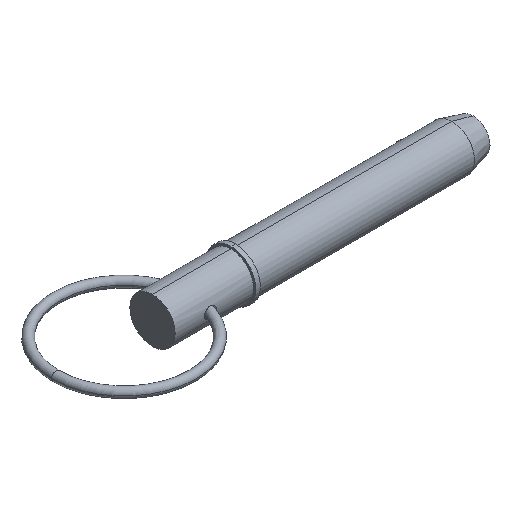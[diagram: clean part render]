
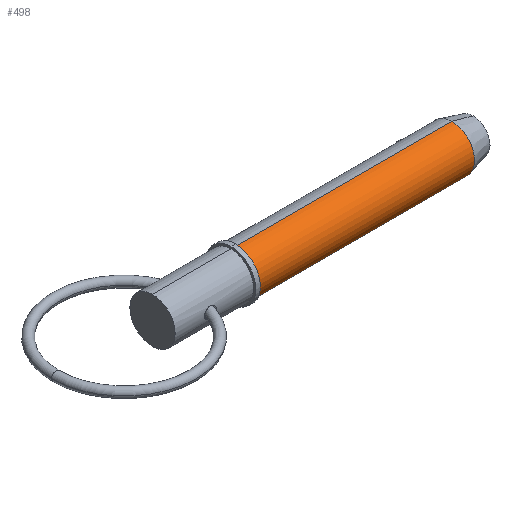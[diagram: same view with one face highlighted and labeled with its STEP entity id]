
A CAD part, isometric view. The second image highlights one B-rep face of the part: STEP entity #498.
In plain terms, the highlighted cylindrical face has radius 9.525 mm (diameter 19.05 mm), a partial arc.
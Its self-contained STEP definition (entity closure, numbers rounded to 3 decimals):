
#8 = DIRECTION ( 'NONE',  ( 1., 0., 0. ) ) ;
#57 = LINE ( 'NONE', #785, #756 ) ;
#73 = CARTESIAN_POINT ( 'NONE',  ( 126.043, 0., -9.525 ) ) ;
#86 = CARTESIAN_POINT ( 'NONE',  ( 126.043, 0., 0. ) ) ;
#96 = DIRECTION ( 'NONE',  ( 1., 0., 0. ) ) ;
#128 = CIRCLE ( 'NONE', #831, 9.525 ) ;
#130 = DIRECTION ( 'NONE',  ( 1., 0., 0. ) ) ;
#144 = CIRCLE ( 'NONE', #982, 9.525 ) ;
#167 = EDGE_CURVE ( 'NONE', #958, #265, #144, .T. ) ;
#221 = CYLINDRICAL_SURFACE ( 'NONE', #306, 9.525 ) ;
#222 = VERTEX_POINT ( 'NONE', #808 ) ;
#223 = EDGE_CURVE ( 'NONE', #850, #958, #233, .T. ) ;
#233 = LINE ( 'NONE', #488, #400 ) ;
#265 = VERTEX_POINT ( 'NONE', #73 ) ;
#286 = EDGE_CURVE ( 'NONE', #850, #222, #128, .T. ) ;
#306 = AXIS2_PLACEMENT_3D ( 'NONE', #1058, #563, #966 ) ;
#344 = DIRECTION ( 'NONE',  ( 0., 0., -1. ) ) ;
#358 = CARTESIAN_POINT ( 'NONE',  ( 34.93, 0., 9.525 ) ) ;
#400 = VECTOR ( 'NONE', #882, 1000. ) ;
#414 = EDGE_LOOP ( 'NONE', ( #618, #705, #943, #758 ) ) ;
#488 = CARTESIAN_POINT ( 'NONE',  ( 0., 0., 9.525 ) ) ;
#498 = ADVANCED_FACE ( 'NONE', ( #790 ), #221, .T. ) ;
#512 = DIRECTION ( 'NONE',  ( 0., 0., -1. ) ) ;
#563 = DIRECTION ( 'NONE',  ( 1., 0., 0. ) ) ;
#618 = ORIENTED_EDGE ( 'NONE', *, *, #223, .F. ) ;
#705 = ORIENTED_EDGE ( 'NONE', *, *, #286, .T. ) ;
#756 = VECTOR ( 'NONE', #130, 1000. ) ;
#758 = ORIENTED_EDGE ( 'NONE', *, *, #167, .F. ) ;
#785 = CARTESIAN_POINT ( 'NONE',  ( 0., 0., -9.525 ) ) ;
#790 = FACE_OUTER_BOUND ( 'NONE', #414, .T. ) ;
#808 = CARTESIAN_POINT ( 'NONE',  ( 34.93, 0., -9.525 ) ) ;
#831 = AXIS2_PLACEMENT_3D ( 'NONE', #988, #96, #512 ) ;
#850 = VERTEX_POINT ( 'NONE', #358 ) ;
#882 = DIRECTION ( 'NONE',  ( 1., 0., 0. ) ) ;
#943 = ORIENTED_EDGE ( 'NONE', *, *, #983, .T. ) ;
#958 = VERTEX_POINT ( 'NONE', #1035 ) ;
#966 = DIRECTION ( 'NONE',  ( 0., 0., -1. ) ) ;
#982 = AXIS2_PLACEMENT_3D ( 'NONE', #86, #8, #344 ) ;
#983 = EDGE_CURVE ( 'NONE', #222, #265, #57, .T. ) ;
#988 = CARTESIAN_POINT ( 'NONE',  ( 34.93, 0., 0. ) ) ;
#1035 = CARTESIAN_POINT ( 'NONE',  ( 126.043, 0., 9.525 ) ) ;
#1058 = CARTESIAN_POINT ( 'NONE',  ( 0., 0., 0. ) ) ;
